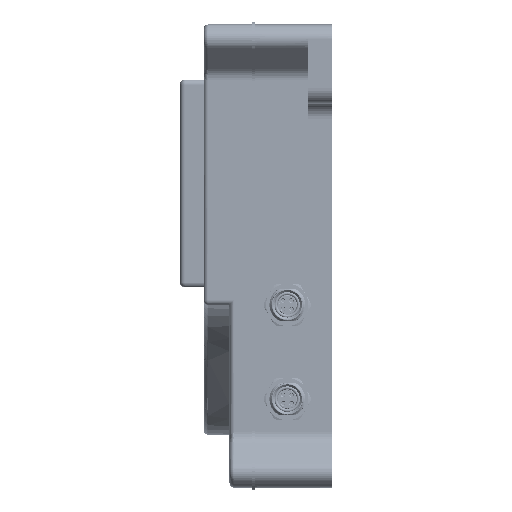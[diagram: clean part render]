
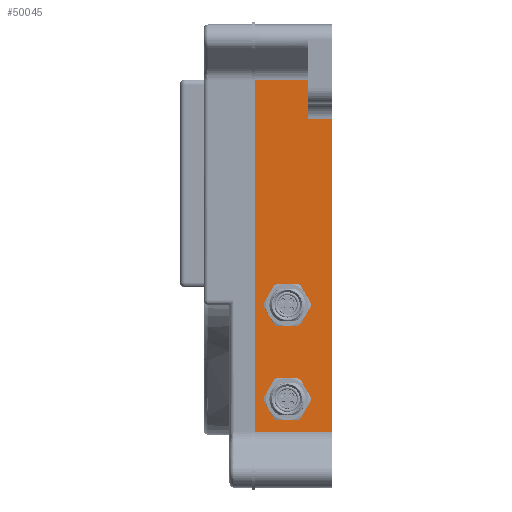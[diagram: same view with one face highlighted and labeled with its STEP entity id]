
A CAD part, left-side view. The second image highlights one B-rep face of the part: STEP entity #50045.
In plain terms, the highlighted planar face has unit normal (-1, 0, 0).
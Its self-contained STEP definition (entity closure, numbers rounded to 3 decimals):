
#86 = VECTOR ( 'NONE', #142945, 1000. ) ;
#3862 = DIRECTION ( 'NONE',  ( 1., 0., 0. ) ) ;
#4392 = ORIENTED_EDGE ( 'NONE', *, *, #55744, .T. ) ;
#4775 = VERTEX_POINT ( 'NONE', #138778 ) ;
#5571 = FACE_OUTER_BOUND ( 'NONE', #140845, .T. ) ;
#5739 = LINE ( 'NONE', #46844, #138921 ) ;
#8178 = EDGE_CURVE ( 'NONE', #43068, #125485, #25348, .T. ) ;
#8792 = AXIS2_PLACEMENT_3D ( 'NONE', #166393, #25619, #65087 ) ;
#10886 = CARTESIAN_POINT ( 'NONE',  ( -106.5, 15.388, -13.9 ) ) ;
#12770 = CARTESIAN_POINT ( 'NONE',  ( -106.5, 32.82, -74.572 ) ) ;
#14655 = CARTESIAN_POINT ( 'NONE',  ( -106.5, 0., -74.572 ) ) ;
#14806 = EDGE_CURVE ( 'NONE', #146638, #30595, #63319, .T. ) ;
#17201 = VERTEX_POINT ( 'NONE', #94659 ) ;
#18646 = ORIENTED_EDGE ( 'NONE', *, *, #8178, .F. ) ;
#19925 = AXIS2_PLACEMENT_3D ( 'NONE', #92128, #90448, #36465 ) ;
#25348 = CIRCLE ( 'NONE', #19925, 7.7 ) ;
#25619 = DIRECTION ( 'NONE',  ( -1., 0., 0. ) ) ;
#26034 = CARTESIAN_POINT ( 'NONE',  ( -106.5, 15.388, -53.9 ) ) ;
#30566 = CIRCLE ( 'NONE', #126339, 7.7 ) ;
#30595 = VERTEX_POINT ( 'NONE', #43056 ) ;
#30663 = DIRECTION ( 'NONE',  ( 0., 0., 1. ) ) ;
#31907 = AXIS2_PLACEMENT_3D ( 'NONE', #84113, #68745, #108184 ) ;
#33870 = EDGE_CURVE ( 'NONE', #149501, #40160, #36713, .T. ) ;
#36465 = DIRECTION ( 'NONE',  ( 0., 0., 1. ) ) ;
#36600 = ORIENTED_EDGE ( 'NONE', *, *, #79236, .T. ) ;
#36713 = LINE ( 'NONE', #37569, #73600 ) ;
#37569 = CARTESIAN_POINT ( 'NONE',  ( -106.5, 0., -13.9 ) ) ;
#39090 = EDGE_CURVE ( 'NONE', #152847, #30595, #158800, .T. ) ;
#39993 = ORIENTED_EDGE ( 'NONE', *, *, #58773, .F. ) ;
#40160 = VERTEX_POINT ( 'NONE', #10886 ) ;
#42445 = FACE_BOUND ( 'NONE', #92270, .T. ) ;
#43056 = CARTESIAN_POINT ( 'NONE',  ( -106.5, 32.82, 74.572 ) ) ;
#43068 = VERTEX_POINT ( 'NONE', #167399 ) ;
#45310 = ORIENTED_EDGE ( 'NONE', *, *, #59125, .F. ) ;
#46844 = CARTESIAN_POINT ( 'NONE',  ( -106.5, 0., -27.5 ) ) ;
#47196 = VERTEX_POINT ( 'NONE', #97608 ) ;
#50045 = ADVANCED_FACE ( 'NONE', ( #81908, #42445, #5571 ), #107667, .F. ) ;
#52339 = DIRECTION ( 'NONE',  ( 0., 1., 0. ) ) ;
#54495 = CARTESIAN_POINT ( 'NONE',  ( -106.5, 10., 0. ) ) ;
#55145 = CARTESIAN_POINT ( 'NONE',  ( -106.5, 0., -74.572 ) ) ;
#55744 = EDGE_CURVE ( 'NONE', #152847, #134930, #68025, .T. ) ;
#58773 = EDGE_CURVE ( 'NONE', #17201, #40160, #78483, .T. ) ;
#58938 = CARTESIAN_POINT ( 'NONE',  ( -106.5, 0., -85.75 ) ) ;
#59125 = EDGE_CURVE ( 'NONE', #129872, #43068, #91484, .T. ) ;
#63238 = CARTESIAN_POINT ( 'NONE',  ( -106.5, 22.612, -27.5 ) ) ;
#63319 = LINE ( 'NONE', #100180, #84650 ) ;
#63807 = VECTOR ( 'NONE', #79407, 1000. ) ;
#65040 = EDGE_CURVE ( 'NONE', #4775, #125485, #88062, .T. ) ;
#65087 = DIRECTION ( 'NONE',  ( 0., 0., 1. ) ) ;
#65751 = ORIENTED_EDGE ( 'NONE', *, *, #168216, .F. ) ;
#68025 = LINE ( 'NONE', #55145, #80456 ) ;
#68745 = DIRECTION ( 'NONE',  ( -1., 0., 0. ) ) ;
#70061 = LINE ( 'NONE', #78938, #113944 ) ;
#73600 = VECTOR ( 'NONE', #113942, 1000. ) ;
#73616 = ORIENTED_EDGE ( 'NONE', *, *, #14806, .T. ) ;
#78158 = CARTESIAN_POINT ( 'NONE',  ( -106.5, 32.82, -85.75 ) ) ;
#78483 = CIRCLE ( 'NONE', #31907, 7.7 ) ;
#78938 = CARTESIAN_POINT ( 'NONE',  ( -106.5, 32.82, 58.247 ) ) ;
#79236 = EDGE_CURVE ( 'NONE', #47196, #94982, #70061, .T. ) ;
#79407 = DIRECTION ( 'NONE',  ( 0., 0., -1. ) ) ;
#80456 = VECTOR ( 'NONE', #104106, 1000. ) ;
#81908 = FACE_BOUND ( 'NONE', #95458, .T. ) ;
#82553 = VECTOR ( 'NONE', #169147, 1000. ) ;
#83442 = ORIENTED_EDGE ( 'NONE', *, *, #33870, .T. ) ;
#84113 = CARTESIAN_POINT ( 'NONE',  ( -106.5, 19., -20.7 ) ) ;
#84598 = DIRECTION ( 'NONE',  ( 0., -1., 0. ) ) ;
#84650 = VECTOR ( 'NONE', #115661, 1000. ) ;
#85501 = LINE ( 'NONE', #58938, #96300 ) ;
#88062 = LINE ( 'NONE', #101805, #86 ) ;
#88933 = DIRECTION ( 'NONE',  ( 0., -1., 0. ) ) ;
#90293 = EDGE_CURVE ( 'NONE', #4775, #129872, #30566, .T. ) ;
#90448 = DIRECTION ( 'NONE',  ( -1., 0., 0. ) ) ;
#91484 = LINE ( 'NONE', #130174, #152624 ) ;
#92128 = CARTESIAN_POINT ( 'NONE',  ( -106.5, 19., -60.7 ) ) ;
#92270 = EDGE_LOOP ( 'NONE', ( #164384, #18646, #45310, #96489 ) ) ;
#94659 = CARTESIAN_POINT ( 'NONE',  ( -106.5, 15.388, -27.5 ) ) ;
#94982 = VERTEX_POINT ( 'NONE', #167462 ) ;
#95458 = EDGE_LOOP ( 'NONE', ( #65751, #145667, #83442, #39993 ) ) ;
#96300 = VECTOR ( 'NONE', #30663, 1000. ) ;
#96489 = ORIENTED_EDGE ( 'NONE', *, *, #90293, .F. ) ;
#97608 = CARTESIAN_POINT ( 'NONE',  ( -106.5, 0., 58.247 ) ) ;
#98438 = DIRECTION ( 'NONE',  ( 0., 0., 1. ) ) ;
#98521 = CARTESIAN_POINT ( 'NONE',  ( -106.5, 22.612, -13.9 ) ) ;
#100180 = CARTESIAN_POINT ( 'NONE',  ( -106.5, 32.82, 74.572 ) ) ;
#101805 = CARTESIAN_POINT ( 'NONE',  ( -106.5, 0., -53.9 ) ) ;
#104106 = DIRECTION ( 'NONE',  ( 0., -1., 0. ) ) ;
#107667 = PLANE ( 'NONE',  #153093 ) ;
#108184 = DIRECTION ( 'NONE',  ( 0., 0., 1. ) ) ;
#113942 = DIRECTION ( 'NONE',  ( 0., -1., 0. ) ) ;
#113944 = VECTOR ( 'NONE', #52339, 1000. ) ;
#115001 = EDGE_CURVE ( 'NONE', #146638, #94982, #119699, .T. ) ;
#115661 = DIRECTION ( 'NONE',  ( 0., 1., 0. ) ) ;
#119699 = LINE ( 'NONE', #54495, #63807 ) ;
#121107 = CIRCLE ( 'NONE', #8792, 7.7 ) ;
#121708 = CARTESIAN_POINT ( 'NONE',  ( -106.5, 19., -60.7 ) ) ;
#123577 = CARTESIAN_POINT ( 'NONE',  ( -106.5, 22.612, -67.5 ) ) ;
#125485 = VERTEX_POINT ( 'NONE', #26034 ) ;
#126339 = AXIS2_PLACEMENT_3D ( 'NONE', #121708, #147366, #98438 ) ;
#129872 = VERTEX_POINT ( 'NONE', #123577 ) ;
#130174 = CARTESIAN_POINT ( 'NONE',  ( -106.5, 0., -67.5 ) ) ;
#131227 = ORIENTED_EDGE ( 'NONE', *, *, #39090, .F. ) ;
#134930 = VERTEX_POINT ( 'NONE', #14655 ) ;
#135068 = CARTESIAN_POINT ( 'NONE',  ( -106.5, 32.82, -85.75 ) ) ;
#135202 = EDGE_CURVE ( 'NONE', #149501, #146229, #121107, .T. ) ;
#135453 = EDGE_CURVE ( 'NONE', #134930, #47196, #85501, .T. ) ;
#138757 = CARTESIAN_POINT ( 'NONE',  ( -106.5, 10., 74.572 ) ) ;
#138778 = CARTESIAN_POINT ( 'NONE',  ( -106.5, 22.612, -53.9 ) ) ;
#138921 = VECTOR ( 'NONE', #84598, 1000. ) ;
#140845 = EDGE_LOOP ( 'NONE', ( #141332, #73616, #131227, #4392, #167748, #36600 ) ) ;
#141332 = ORIENTED_EDGE ( 'NONE', *, *, #115001, .F. ) ;
#142945 = DIRECTION ( 'NONE',  ( 0., -1., 0. ) ) ;
#145667 = ORIENTED_EDGE ( 'NONE', *, *, #135202, .F. ) ;
#146229 = VERTEX_POINT ( 'NONE', #63238 ) ;
#146638 = VERTEX_POINT ( 'NONE', #138757 ) ;
#147366 = DIRECTION ( 'NONE',  ( -1., 0., 0. ) ) ;
#149501 = VERTEX_POINT ( 'NONE', #98521 ) ;
#152624 = VECTOR ( 'NONE', #88933, 1000. ) ;
#152847 = VERTEX_POINT ( 'NONE', #12770 ) ;
#153093 = AXIS2_PLACEMENT_3D ( 'NONE', #135068, #3862, #160870 ) ;
#158800 = LINE ( 'NONE', #78158, #82553 ) ;
#160870 = DIRECTION ( 'NONE',  ( 0., 0., -1. ) ) ;
#164384 = ORIENTED_EDGE ( 'NONE', *, *, #65040, .T. ) ;
#166393 = CARTESIAN_POINT ( 'NONE',  ( -106.5, 19., -20.7 ) ) ;
#167399 = CARTESIAN_POINT ( 'NONE',  ( -106.5, 15.388, -67.5 ) ) ;
#167462 = CARTESIAN_POINT ( 'NONE',  ( -106.5, 10., 58.247 ) ) ;
#167748 = ORIENTED_EDGE ( 'NONE', *, *, #135453, .T. ) ;
#168216 = EDGE_CURVE ( 'NONE', #146229, #17201, #5739, .T. ) ;
#169147 = DIRECTION ( 'NONE',  ( 0., 0., 1. ) ) ;
